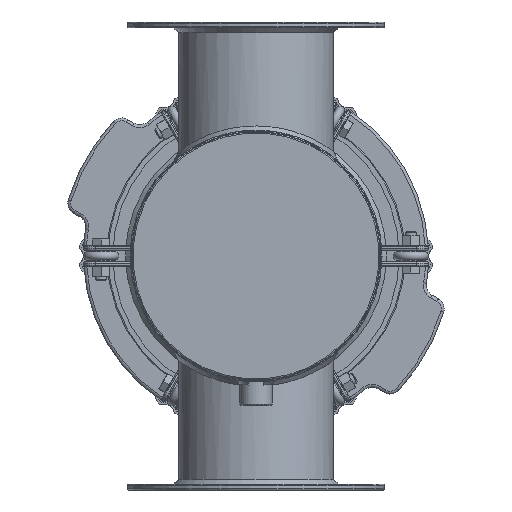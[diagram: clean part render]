
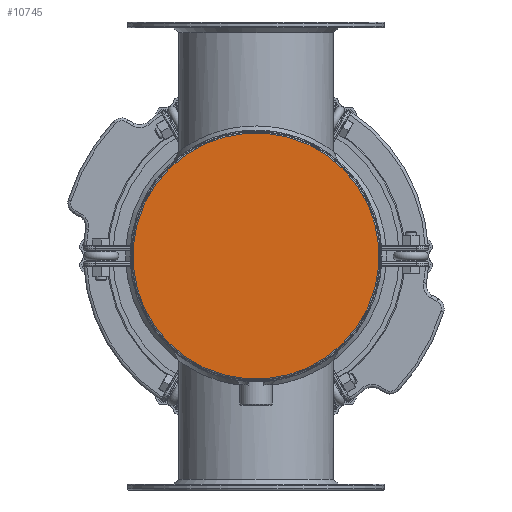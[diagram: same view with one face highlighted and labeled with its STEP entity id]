
A CAD part, front view. The second image highlights one B-rep face of the part: STEP entity #10745.
In plain terms, the highlighted planar face has unit normal (0, -1, 0).
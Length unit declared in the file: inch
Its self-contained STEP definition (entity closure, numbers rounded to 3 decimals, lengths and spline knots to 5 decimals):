
#1098=CIRCLE('',#11556,5.2625);
#2326=FACE_OUTER_BOUND('',#3076,.T.);
#3076=EDGE_LOOP('',(#7883));
#5137=VERTEX_POINT('',#19639);
#6146=EDGE_CURVE('',#5137,#5137,#1098,.T.);
#7883=ORIENTED_EDGE('',*,*,#6146,.F.);
#10485=PLANE('',#11559);
#10745=ADVANCED_FACE('',(#2326),#10485,.F.);
#11556=AXIS2_PLACEMENT_3D('',#19640,#13427,#13428);
#11559=AXIS2_PLACEMENT_3D('',#19644,#13433,#13434);
#13427=DIRECTION('center_axis',(0.,1.,0.));
#13428=DIRECTION('ref_axis',(1.,0.,0.));
#13433=DIRECTION('center_axis',(0.,1.,0.));
#13434=DIRECTION('ref_axis',(0.,0.,1.));
#19639=CARTESIAN_POINT('',(-5.2625,0.,0.));
#19640=CARTESIAN_POINT('Origin',(0.,0.,0.));
#19644=CARTESIAN_POINT('Origin',(0.,0.,0.));
